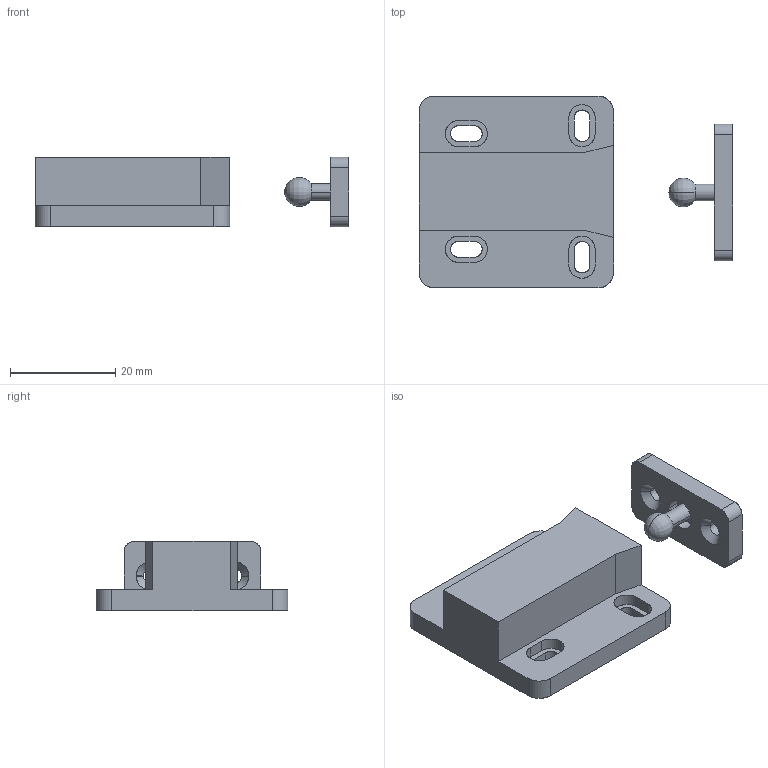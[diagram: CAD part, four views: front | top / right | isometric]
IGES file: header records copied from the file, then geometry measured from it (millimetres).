
Start section: SolidWorks IGES FILE using analytic representation for surfaces
Global section: file name: \\Ls-wvld1d\share\シブタニ\3D設計\梅谷設計\0616受領\マグネットキャッチ\EL-903\EL-903.IGS; native system: SolidWorks 2003 by SolidWorks Corporation; preprocessor: Version 5.3; author: user; date: 130617.141319; units: millimetre
Bounding box: 59.7 x 36.5 x 13.2 mm (x, y, z)
Surface area: 7552.3 mm2 (no closed solid volume)
Topology: 0 solids, 0 shells, 140 faces, 2224 edges, 2224 vertices
Faces by surface type: revolution 72, bspline 68
